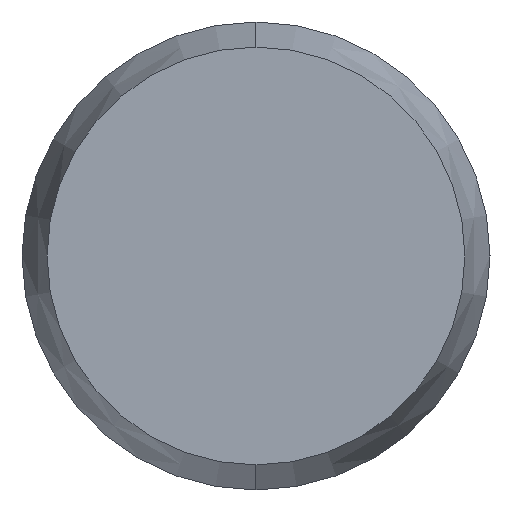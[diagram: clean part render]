
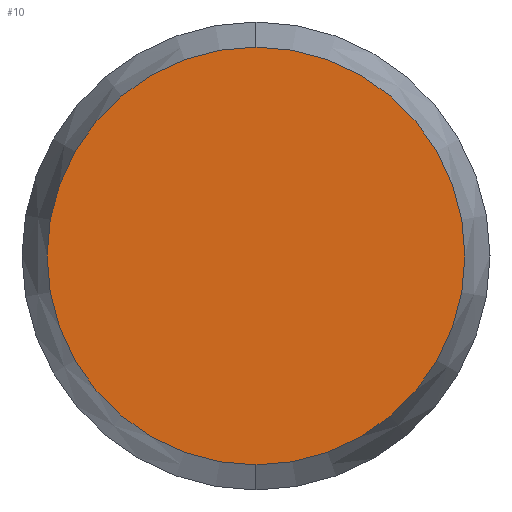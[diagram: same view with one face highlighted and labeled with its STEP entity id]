
A CAD part, left-side view. The second image highlights one B-rep face of the part: STEP entity #10.
In plain terms, the highlighted planar face has unit normal (-1, 0, 0).
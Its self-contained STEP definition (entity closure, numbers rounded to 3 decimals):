
#1 = VERTEX_POINT ( 'NONE', #49 ) ;
#7 = EDGE_CURVE ( 'NONE', #30, #1, #274, .T. ) ;
#10 = ADVANCED_FACE ( 'NONE', ( #272 ), #275, .F. ) ;
#11 = EDGE_LOOP ( 'NONE', ( #12, #13 ) ) ;
#12 = ORIENTED_EDGE ( 'NONE', *, *, #29, .F. ) ;
#13 = ORIENTED_EDGE ( 'NONE', *, *, #7, .F. ) ;
#29 = EDGE_CURVE ( 'NONE', #1, #30, #252, .T. ) ;
#30 = VERTEX_POINT ( 'NONE', #158 ) ;
#49 = CARTESIAN_POINT ( 'NONE',  ( -9., 0., 0.67 ) ) ;
#158 = CARTESIAN_POINT ( 'NONE',  ( -9., 0., -0.67 ) ) ;
#159 = DIRECTION ( 'NONE',  ( 0., 0., -1. ) ) ;
#160 = DIRECTION ( 'NONE',  ( 1., 0., 0. ) ) ;
#161 = AXIS2_PLACEMENT_3D ( 'NONE', #253, #160, #159 ) ;
#171 = CARTESIAN_POINT ( 'NONE',  ( -9., 0., 0. ) ) ;
#172 = AXIS2_PLACEMENT_3D ( 'NONE', #171, #262, #261 ) ;
#245 = AXIS2_PLACEMENT_3D ( 'NONE', #273, #271, #270 ) ;
#252 = CIRCLE ( 'NONE', #161, 0.67 ) ;
#253 = CARTESIAN_POINT ( 'NONE',  ( -9., 0., 0. ) ) ;
#261 = DIRECTION ( 'NONE',  ( 0., 0., -1. ) ) ;
#262 = DIRECTION ( 'NONE',  ( 1., 0., 0. ) ) ;
#270 = DIRECTION ( 'NONE',  ( 0., 0., -1. ) ) ;
#271 = DIRECTION ( 'NONE',  ( 1., 0., 0. ) ) ;
#272 = FACE_OUTER_BOUND ( 'NONE', #11, .T. ) ;
#273 = CARTESIAN_POINT ( 'NONE',  ( -9., 0., 0. ) ) ;
#274 = CIRCLE ( 'NONE', #245, 0.67 ) ;
#275 = PLANE ( 'NONE',  #172 ) ;
